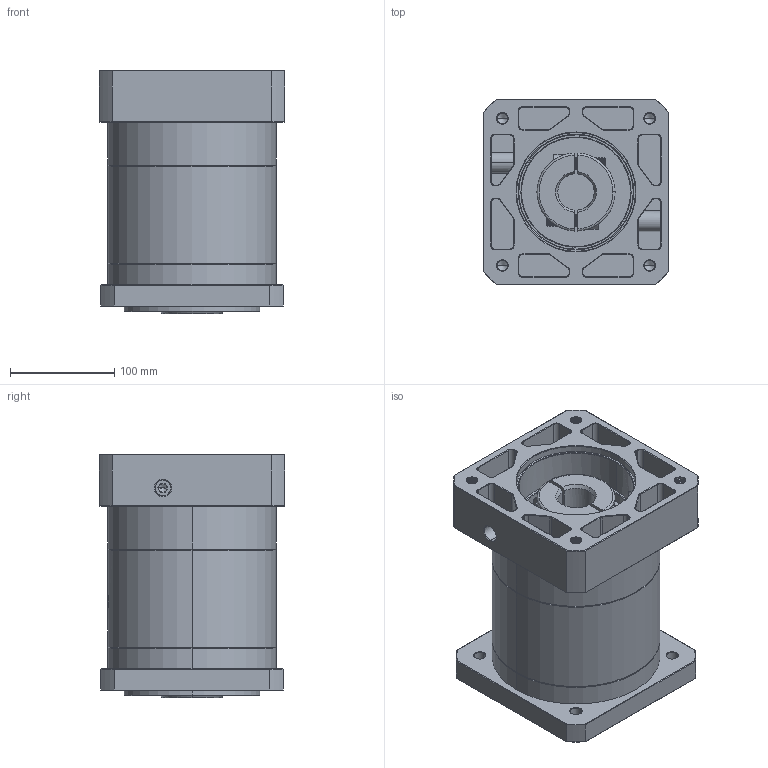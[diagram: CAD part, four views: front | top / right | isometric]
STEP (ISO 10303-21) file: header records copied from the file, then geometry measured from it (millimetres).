
FILE_DESCRIPTION (( 'STEP AP214' ), '1' );
FILE_NAME ('ZF160A-K35-L2-P2-35-114.3-200-M12.step', '2023-09-03T07:03:10', ( '' ), ( '' ), 'SwSTEP 2.0', 'SolidWorks 2016', '' );
FILE_SCHEMA (( 'AUTOMOTIVE_DESIGN' ));
Length unit declared in the file: millimetre
Products named in the file (1): ZF160A-K35-L2-P2-35-114.3-200-M12
Bounding box: 178 x 178 x 234.2 mm (x, y, z)
Volume: 4713719.3 mm3; surface area: 389867.7 mm2
Topology: 6 solids, 6 shells, 2300 faces, 6175 edges, 3987 vertices
Faces by surface type: plane 1100, cylinder 417, bspline 404, cone 359, torus 20
Entity records: 125908 total; most frequent: CARTESIAN_POINT 47825, ORIENTED_EDGE 12294, DIRECTION 9288, EDGE_CURVE 6147, VERTEX_POINT 3987, VECTOR 3280, LINE 3280, AXIS2_PLACEMENT_3D 3004
